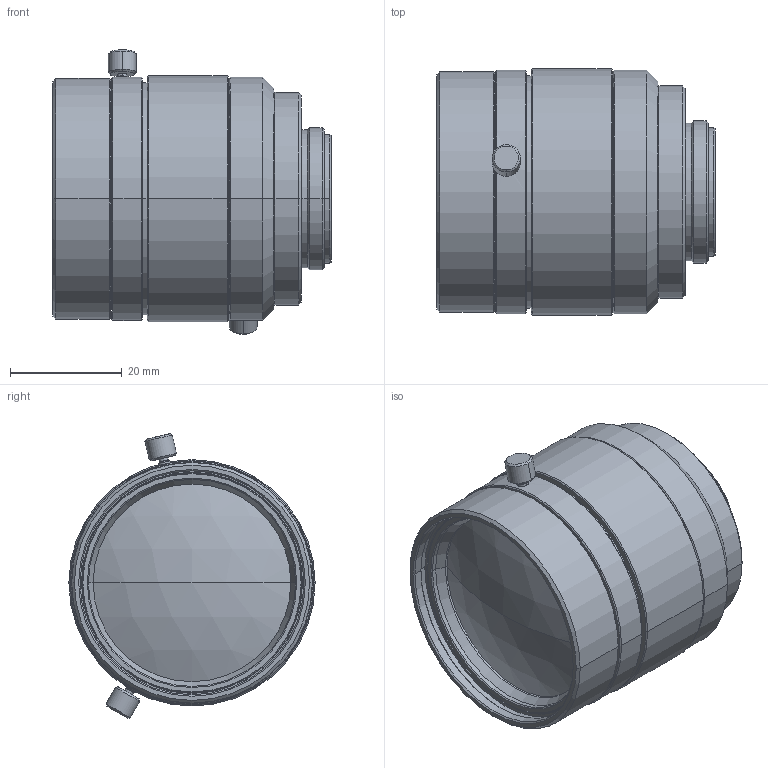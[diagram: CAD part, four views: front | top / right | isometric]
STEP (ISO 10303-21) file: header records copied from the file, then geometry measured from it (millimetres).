
FILE_DESCRIPTION (( 'STEP AP203' ), '1' );
FILE_NAME ('VS-5018H1.STEP', '2013-11-25T01:14:35', ( 'VS Technology' ), ( '' ), 'SwSTEP 2.0', 'SolidWorks 2012', '' );
FILE_SCHEMA (( 'CONFIG_CONTROL_DESIGN' ));
Length unit declared in the file: millimetre
Products named in the file (1): VS-5018H1
Bounding box: 49.7 x 44 x 50.86 mm (x, y, z)
Volume: 59975.4 mm3; surface area: 11239 mm2
Topology: 1 solids, 1 shells, 134 faces, 266 edges, 154 vertices
Faces by surface type: cone 60, cylinder 50, plane 20, sphere 4
Entity records: 3575 total; most frequent: DIRECTION 684, CARTESIAN_POINT 619, ORIENTED_EDGE 532, AXIS2_PLACEMENT_3D 287, EDGE_CURVE 266, EDGE_LOOP 154, VERTEX_POINT 154, CIRCLE 152
